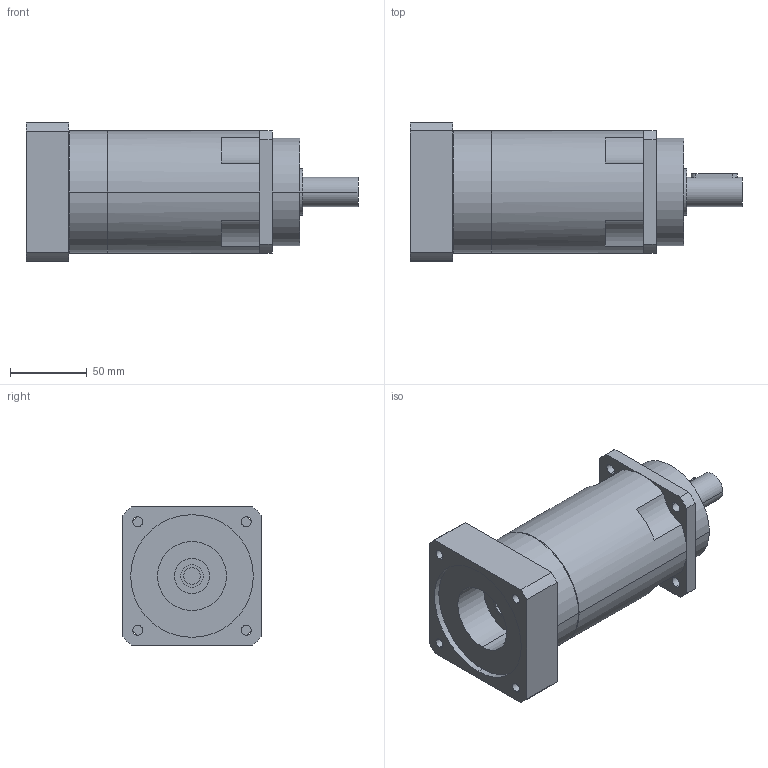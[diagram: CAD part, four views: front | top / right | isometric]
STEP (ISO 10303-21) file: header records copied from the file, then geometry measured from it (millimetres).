
FILE_DESCRIPTION(('CoCreate Modeling STEP Export'),'2;1');
FILE_NAME('GPR100_ig-48-64-80-100-120-144-180-216_19_B5_11_P28.stp','2014-08-26T11:53:11',(''),(''),'CoCreate Modeling STEP processor for AP214 (Solid Model)','CoCreate Modeling 16.00C 25-Feb-2009 (C) Parametric Technology GmbH','');
FILE_SCHEMA(('AUTOMOTIVE_DESIGN { 1 0 10303 214 1 1 1 1 }'));
Length unit declared in the file: millimetre
Products named in the file (2): GPR100_ig-48-64-80-100-120-144-180-216_19_B5_11_P28
Assembly tree (1 placements, depth 2):
  GPR100_ig-48-64-80-100-120-144-180-216_19_B5_11_P28
    GPR100_ig-48-64-80-100-120-144-180-216_19_B5_11_P28
Bounding box: 216.4 x 90 x 90 mm (x, y, z)
Volume: 909614.4 mm3; surface area: 77668.5 mm2
Topology: 1 solids, 1 shells, 89 faces, 246 edges, 168 vertices
Faces by surface type: cylinder 52, plane 31, cone 6
Entity records: 2607 total; most frequent: ORIENTED_EDGE 488, CARTESIAN_POINT 473, DIRECTION 386, EDGE_CURVE 244, VERTEX_POINT 168, AXIS2_PLACEMENT_3D 145, EDGE_LOOP 116, VECTOR 96
